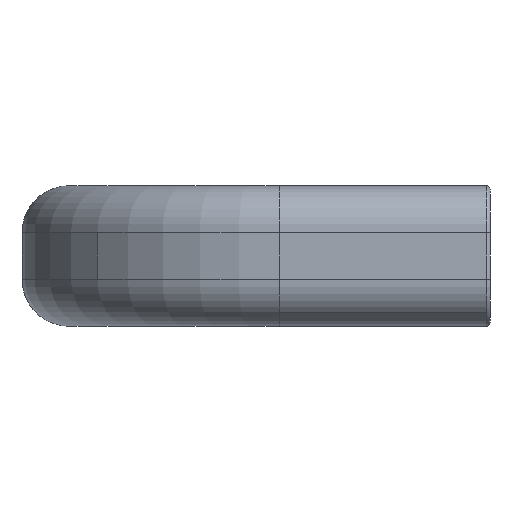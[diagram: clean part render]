
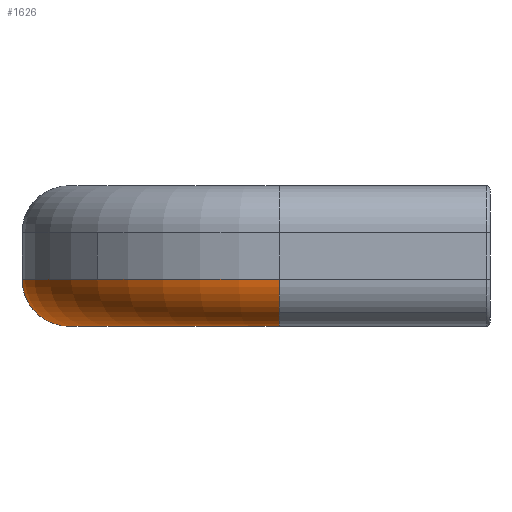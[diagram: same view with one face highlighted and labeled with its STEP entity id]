
A CAD part, left-side view. The second image highlights one B-rep face of the part: STEP entity #1626.
In plain terms, the highlighted toroidal (fillet/blend) face has major radius 18 mm and minor radius 4 mm.
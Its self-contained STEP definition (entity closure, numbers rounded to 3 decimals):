
#375=CARTESIAN_POINT('',(-81.899,27.899,-2.));
#376=VERTEX_POINT('',#375);
#390=CARTESIAN_POINT('',(-86.0,18.,-2.));
#391=VERTEX_POINT('',#390);
#398=CARTESIAN_POINT('',(-72.,18.,-2.));
#399=DIRECTION('',(0.0,0.0,-1.0));
#400=DIRECTION('',(-1.0,0.0,0.0));
#401=AXIS2_PLACEMENT_3D('',#398,#399,#400);
#402=CIRCLE('',#401,14.);
#403=EDGE_CURVE('',#391,#376,#402,.T.);
#413=CARTESIAN_POINT('',(-87.172,18.,-4.828));
#414=VERTEX_POINT('',#413);
#422=CARTESIAN_POINT('',(-90.0,18.,-6.));
#423=VERTEX_POINT('',#422);
#430=CARTESIAN_POINT('',(-90.0,18.,-2.));
#431=DIRECTION('',(0.0,1.0,0.0));
#432=DIRECTION('',(0.0,0.0,-1.0));
#433=AXIS2_PLACEMENT_3D('',#430,#431,#432);
#434=CIRCLE('',#433,4.);
#435=EDGE_CURVE('',#414,#423,#434,.T.);
#447=CARTESIAN_POINT('',(-92.828,18.,-4.828));
#448=VERTEX_POINT('',#447);
#464=CARTESIAN_POINT('',(-94.0,18.,-2.));
#465=VERTEX_POINT('',#464);
#472=CARTESIAN_POINT('',(-90.0,18.,-2.));
#473=DIRECTION('',(0.0,1.0,0.0));
#474=DIRECTION('',(0.0,0.0,-1.0));
#475=AXIS2_PLACEMENT_3D('',#472,#473,#474);
#476=CIRCLE('',#475,4.);
#477=EDGE_CURVE('',#448,#465,#476,.T.);
#571=CARTESIAN_POINT('',(-87.556,33.556,-2.));
#572=VERTEX_POINT('',#571);
#581=CARTESIAN_POINT('',(-72.,18.,-2.));
#582=DIRECTION('',(0.0,0.0,-1.0));
#583=DIRECTION('',(-1.0,0.0,0.0));
#584=AXIS2_PLACEMENT_3D('',#581,#582,#583);
#585=CIRCLE('',#584,22.0);
#586=EDGE_CURVE('',#465,#572,#585,.T.);
#697=CARTESIAN_POINT('',(-72.,36.,-6.0));
#698=VERTEX_POINT('',#697);
#712=CARTESIAN_POINT('',(-72.,32.,-2.));
#713=VERTEX_POINT('',#712);
#720=CARTESIAN_POINT('',(-72.,36.,-2.));
#721=DIRECTION('',(1.0,0.0,0.0));
#722=DIRECTION('',(0.0,0.0,-1.0));
#723=AXIS2_PLACEMENT_3D('',#720,#721,#722);
#724=CIRCLE('',#723,4.);
#725=EDGE_CURVE('',#713,#698,#724,.T.);
#1421=CARTESIAN_POINT('',(-72.,40.,-2.));
#1422=VERTEX_POINT('',#1421);
#1482=CARTESIAN_POINT('',(-72.,36.,-2.));
#1483=DIRECTION('',(1.0,0.0,0.0));
#1484=DIRECTION('',(0.0,0.0,-1.0));
#1485=AXIS2_PLACEMENT_3D('',#1482,#1483,#1484);
#1486=CIRCLE('',#1485,4.);
#1487=EDGE_CURVE('',#698,#1422,#1486,.T.);
#1545=CARTESIAN_POINT('',(-72.,18.,-2.));
#1546=DIRECTION('',(0.0,0.0,-1.0));
#1547=DIRECTION('',(-1.0,0.0,0.0));
#1548=AXIS2_PLACEMENT_3D('',#1545,#1546,#1547);
#1549=CIRCLE('',#1548,22.0);
#1550=EDGE_CURVE('',#572,#1422,#1549,.T.);
#1591=CARTESIAN_POINT('',(-72.,18.,-2.));
#1592=DIRECTION('',(0.0,0.0,-1.0));
#1593=DIRECTION('',(-1.0,0.0,0.0));
#1594=AXIS2_PLACEMENT_3D('',#1591,#1592,#1593);
#1595=TOROIDAL_SURFACE('',#1594,18.,4.);
#1596=CARTESIAN_POINT('',(-90.0,18.,-2.));
#1597=DIRECTION('',(0.0,1.0,0.0));
#1598=DIRECTION('',(0.0,0.0,-1.0));
#1599=AXIS2_PLACEMENT_3D('',#1596,#1597,#1598);
#1600=CIRCLE('',#1599,4.);
#1601=EDGE_CURVE('',#391,#414,#1600,.T.);
#1602=ORIENTED_EDGE('',*,*,#1601,.T.);
#1603=ORIENTED_EDGE('',*,*,#435,.T.);
#1604=CARTESIAN_POINT('',(-90.0,18.,-2.));
#1605=DIRECTION('',(0.0,1.0,0.0));
#1606=DIRECTION('',(0.0,0.0,-1.0));
#1607=AXIS2_PLACEMENT_3D('',#1604,#1605,#1606);
#1608=CIRCLE('',#1607,4.);
#1609=EDGE_CURVE('',#423,#448,#1608,.T.);
#1610=ORIENTED_EDGE('',*,*,#1609,.T.);
#1611=ORIENTED_EDGE('',*,*,#477,.T.);
#1612=ORIENTED_EDGE('',*,*,#586,.T.);
#1613=ORIENTED_EDGE('',*,*,#1550,.T.);
#1614=ORIENTED_EDGE('',*,*,#1487,.F.);
#1615=ORIENTED_EDGE('',*,*,#725,.F.);
#1616=CARTESIAN_POINT('',(-72.,18.,-2.));
#1617=DIRECTION('',(0.0,0.0,-1.0));
#1618=DIRECTION('',(-1.0,0.0,0.0));
#1619=AXIS2_PLACEMENT_3D('',#1616,#1617,#1618);
#1620=CIRCLE('',#1619,14.);
#1621=EDGE_CURVE('',#376,#713,#1620,.T.);
#1622=ORIENTED_EDGE('',*,*,#1621,.F.);
#1623=ORIENTED_EDGE('',*,*,#403,.F.);
#1624=EDGE_LOOP('',(#1602,#1603,#1610,#1611,#1612,#1613,#1614,#1615,#1622,#1623));
#1625=FACE_OUTER_BOUND('',#1624,.T.);
#1626=ADVANCED_FACE('',(#1625),#1595,.T.);
